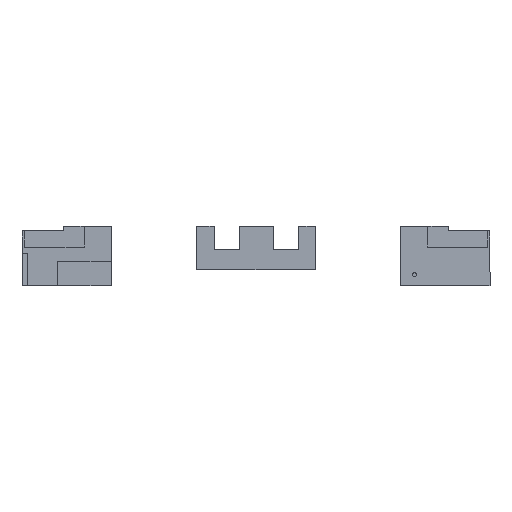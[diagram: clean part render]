
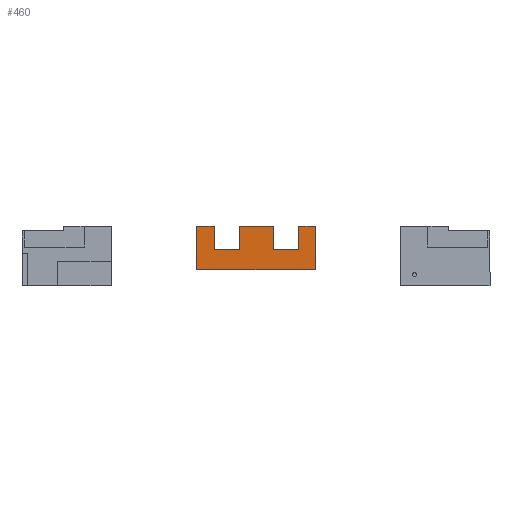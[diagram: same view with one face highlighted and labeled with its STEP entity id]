
A CAD part, front view. The second image highlights one B-rep face of the part: STEP entity #460.
In plain terms, the highlighted planar face has unit normal (0, -1, 0).
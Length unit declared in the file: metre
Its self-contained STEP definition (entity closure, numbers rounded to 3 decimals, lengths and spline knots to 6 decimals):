
#460=ADVANCED_FACE('0:408',(#1018),#1019,.T.);
#1018=FACE_OUTER_BOUND('',#1747,.T.);
#1019=PLANE('',#1748);
#1747=EDGE_LOOP('',(#2675,#2676,#2677,#2678,#2679,#2680,#2681,#2682,#2683,#2684,#2685,#2686));
#1748=AXIS2_PLACEMENT_3D('',#2687,#2688,#2689);
#2675=ORIENTED_EDGE('',*,*,#4407,.T.);
#2676=ORIENTED_EDGE('',*,*,#4440,.T.);
#2677=ORIENTED_EDGE('',*,*,#4426,.T.);
#2678=ORIENTED_EDGE('',*,*,#4413,.T.);
#2679=ORIENTED_EDGE('',*,*,#4424,.T.);
#2680=ORIENTED_EDGE('',*,*,#4436,.T.);
#2681=ORIENTED_EDGE('',*,*,#4441,.T.);
#2682=ORIENTED_EDGE('',*,*,#4400,.F.);
#2683=ORIENTED_EDGE('',*,*,#4442,.T.);
#2684=ORIENTED_EDGE('',*,*,#4433,.T.);
#2685=ORIENTED_EDGE('',*,*,#4418,.T.);
#2686=ORIENTED_EDGE('',*,*,#4416,.T.);
#2687=CARTESIAN_POINT('',(-0.114387,0.119791,-0.053062));
#2688=DIRECTION('',(0.,-1.0,0.));
#2689=DIRECTION('',(0.,0.,-1.0));
#4400=EDGE_CURVE('0:564',#5234,#5235,#5236,.F.);
#4407=EDGE_CURVE('0:540',#5241,#5245,#5247,.T.);
#4413=EDGE_CURVE('0:522',#5258,#5256,#5259,.T.);
#4416=EDGE_CURVE('0:537',#5252,#5241,#5263,.T.);
#4418=EDGE_CURVE('0:534',#5265,#5252,#5266,.T.);
#4424=EDGE_CURVE('0:525',#5256,#5273,#5275,.T.);
#4426=EDGE_CURVE('0:519',#5277,#5258,#5278,.T.);
#4433=EDGE_CURVE('0:501',#5288,#5265,#5289,.T.);
#4436=EDGE_CURVE('0:507',#5273,#5292,#5293,.T.);
#4440=EDGE_CURVE('0:504',#5245,#5277,#5298,.T.);
#4441=EDGE_CURVE('0:498',#5292,#5235,#5299,.T.);
#4442=EDGE_CURVE('0:510',#5234,#5288,#5300,.T.);
#5234=VERTEX_POINT('',#6454);
#5235=VERTEX_POINT('',#6455);
#5236=LINE('',#6456,#6457);
#5241=VERTEX_POINT('',#6464);
#5245=VERTEX_POINT('',#6470);
#5247=LINE('',#6473,#6474);
#5252=VERTEX_POINT('',#6479);
#5256=VERTEX_POINT('',#6485);
#5258=VERTEX_POINT('',#6488);
#5259=LINE('',#6489,#6490);
#5263=LINE('',#6496,#6497);
#5265=VERTEX_POINT('',#6499);
#5266=LINE('',#6500,#6501);
#5273=VERTEX_POINT('',#6511);
#5275=LINE('',#6514,#6515);
#5277=VERTEX_POINT('',#6517);
#5278=LINE('',#6518,#6519);
#5288=VERTEX_POINT('',#6532);
#5289=LINE('',#6533,#6534);
#5292=VERTEX_POINT('',#6538);
#5293=LINE('',#6539,#6540);
#5298=LINE('',#6547,#6548);
#5299=LINE('',#6549,#6550);
#5300=LINE('',#6551,#6552);
#6454=CARTESIAN_POINT('',(-0.044229,0.119791,-0.043062));
#6455=CARTESIAN_POINT('',(-0.144229,0.119791,-0.043062));
#6456=CARTESIAN_POINT('',(-0.144229,0.119791,-0.043062));
#6457=VECTOR('',#7979,1.0);
#6464=CARTESIAN_POINT('',(-0.079399,0.119791,-0.026472));
#6470=CARTESIAN_POINT('',(-0.079399,0.119791,-0.006462));
#6473=CARTESIAN_POINT('',(-0.079399,0.119791,-0.053062));
#6474=VECTOR('',#7985,1.0);
#6479=CARTESIAN_POINT('',(-0.058399,0.119791,-0.026472));
#6485=CARTESIAN_POINT('',(-0.129399,0.119791,-0.026472));
#6488=CARTESIAN_POINT('',(-0.108399,0.119791,-0.026472));
#6489=CARTESIAN_POINT('',(-0.114387,0.119791,-0.026472));
#6490=VECTOR('',#7992,1.0);
#6496=CARTESIAN_POINT('',(-0.114387,0.119791,-0.026472));
#6497=VECTOR('',#7995,1.0);
#6499=CARTESIAN_POINT('',(-0.058399,0.119791,-0.006462));
#6500=CARTESIAN_POINT('',(-0.058399,0.119791,-0.053062));
#6501=VECTOR('',#7996,1.0);
#6511=CARTESIAN_POINT('',(-0.129399,0.119791,-0.006462));
#6514=CARTESIAN_POINT('',(-0.129399,0.119791,-0.053062));
#6515=VECTOR('',#8001,1.0);
#6517=CARTESIAN_POINT('',(-0.108399,0.119791,-0.006462));
#6518=CARTESIAN_POINT('',(-0.108399,0.119791,-0.053062));
#6519=VECTOR('',#8002,1.0);
#6532=CARTESIAN_POINT('',(-0.044229,0.119791,-0.006462));
#6533=CARTESIAN_POINT('',(-0.139387,0.119791,-0.006462));
#6534=VECTOR('',#8009,1.0);
#6538=CARTESIAN_POINT('',(-0.144229,0.119791,-0.006462));
#6539=CARTESIAN_POINT('',(-0.139387,0.119791,-0.006462));
#6540=VECTOR('',#8011,1.0);
#6547=CARTESIAN_POINT('',(-0.139387,0.119791,-0.006462));
#6548=VECTOR('',#8014,1.0);
#6549=CARTESIAN_POINT('',(-0.144229,0.119791,-0.037062));
#6550=VECTOR('',#8015,1.0);
#6551=CARTESIAN_POINT('',(-0.044229,0.119791,-0.012062));
#6552=VECTOR('',#8016,1.0);
#7979=DIRECTION('',(1.0,0.,0.));
#7985=DIRECTION('',(0.,0.,1.0));
#7992=DIRECTION('',(-1.0,0.,0.));
#7995=DIRECTION('',(-1.0,0.,0.));
#7996=DIRECTION('',(0.,0.,-1.0));
#8001=DIRECTION('',(0.,0.,1.0));
#8002=DIRECTION('',(0.,0.,-1.0));
#8009=DIRECTION('',(-1.0,0.,0.));
#8011=DIRECTION('',(-1.0,0.,0.));
#8014=DIRECTION('',(-1.0,0.,0.));
#8015=DIRECTION('',(0.,0.,-1.0));
#8016=DIRECTION('',(0.,0.,1.0));
